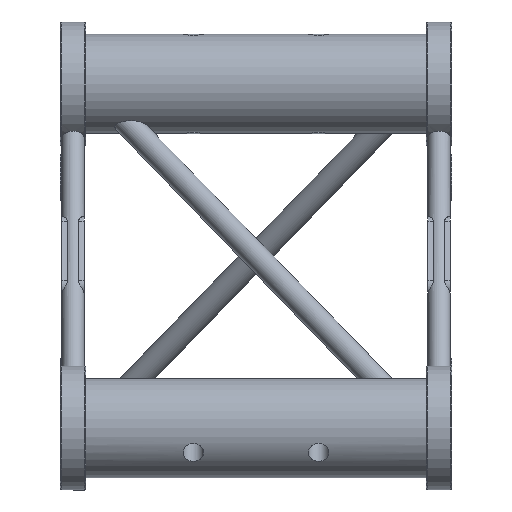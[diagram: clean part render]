
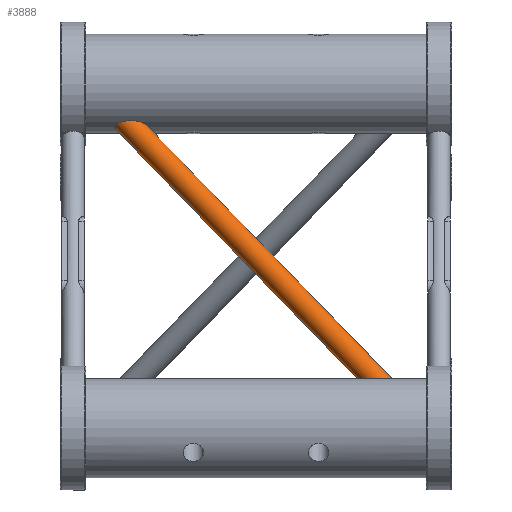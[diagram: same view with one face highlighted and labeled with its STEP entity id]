
A CAD part, front view. The second image highlights one B-rep face of the part: STEP entity #3888.
In plain terms, the highlighted cylindrical face has radius 6.35 mm (diameter 12.7 mm), a full revolution.
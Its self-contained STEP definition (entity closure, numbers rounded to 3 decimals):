
#318=FACE_BOUND('',#786,.T.);
#436=CYLINDRICAL_SURFACE('',#4139,6.35);
#546=FACE_OUTER_BOUND('',#785,.T.);
#785=EDGE_LOOP('',(#2501,#2502));
#786=EDGE_LOOP('',(#2503,#2504));
#1135=ELLIPSE('',#4132,8.289,6.35);
#1136=ELLIPSE('',#4134,8.289,6.35);
#1137=ELLIPSE('',#4136,8.289,6.35);
#1138=ELLIPSE('',#4138,8.289,6.35);
#1597=VERTEX_POINT('',#5597);
#1598=VERTEX_POINT('',#5598);
#1599=VERTEX_POINT('',#5602);
#1600=VERTEX_POINT('',#5603);
#1970=EDGE_CURVE('',#1598,#1597,#1135,.T.);
#1972=EDGE_CURVE('',#1600,#1599,#1136,.T.);
#1973=EDGE_CURVE('',#1597,#1598,#1137,.T.);
#1974=EDGE_CURVE('',#1599,#1600,#1138,.T.);
#2501=ORIENTED_EDGE('',*,*,#1973,.T.);
#2502=ORIENTED_EDGE('',*,*,#1970,.T.);
#2503=ORIENTED_EDGE('',*,*,#1972,.T.);
#2504=ORIENTED_EDGE('',*,*,#1974,.T.);
#3888=ADVANCED_FACE('',(#546,#318),#436,.T.);
#4132=AXIS2_PLACEMENT_3D('',#5600,#4559,#4560);
#4134=AXIS2_PLACEMENT_3D('',#5605,#4564,#4565);
#4136=AXIS2_PLACEMENT_3D('',#5607,#4568,#4569);
#4138=AXIS2_PLACEMENT_3D('',#5609,#4572,#4573);
#4139=AXIS2_PLACEMENT_3D('',#5610,#4574,#4575);
#4559=DIRECTION('center_axis',(0.,0.5,
0.866));
#4560=DIRECTION('ref_axis',(-1.,0.,0.));
#4564=DIRECTION('center_axis',(0.,-0.5,
-0.866));
#4565=DIRECTION('ref_axis',(-1.,0.,0.));
#4568=DIRECTION('center_axis',(0.,0.5,
0.866));
#4569=DIRECTION('ref_axis',(-1.,0.,0.));
#4572=DIRECTION('center_axis',(0.,-0.5,
-0.866));
#4573=DIRECTION('ref_axis',(-1.,0.,0.));
#4574=DIRECTION('center_axis',(-0.643,0.383,0.663));
#4575=DIRECTION('ref_axis',(-0.766,-0.321,-0.557));
#5597=CARTESIAN_POINT('',(172.145,12.7,21.997));
#5598=CARTESIAN_POINT('',(155.566,12.7,21.997));
#5600=CARTESIAN_POINT('Origin',(163.855,12.7,21.997));
#5602=CARTESIAN_POINT('',(44.434,88.8,153.806));
#5603=CARTESIAN_POINT('',(27.855,88.8,153.806));
#5605=CARTESIAN_POINT('Origin',(36.145,88.8,153.806));
#5607=CARTESIAN_POINT('Origin',(163.855,12.7,21.997));
#5609=CARTESIAN_POINT('Origin',(36.145,88.8,153.806));
#5610=CARTESIAN_POINT('Origin',(100.,50.75,87.902));
